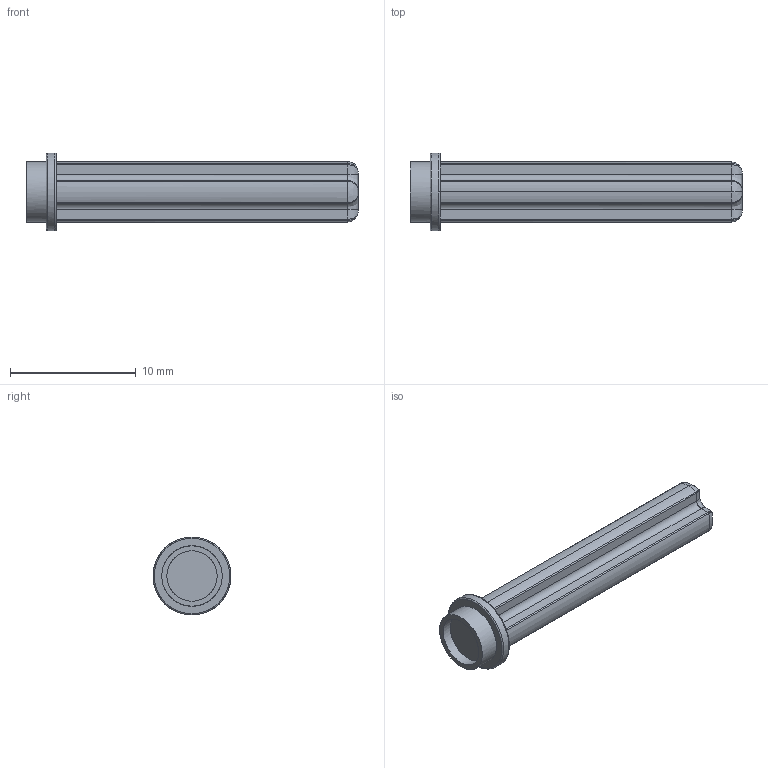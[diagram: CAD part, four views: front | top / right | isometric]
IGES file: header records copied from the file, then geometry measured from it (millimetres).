
Start section: C
Global section: file name: Sand_6031821_JCA.iges; native system: By Siemens PLM Incorporated; preprocessor: XPlus GENERIC/IGES 26.1.183; author: Author; organization: Title; date: 20250722.000527; units: millimetre
Bounding box: 26.4 x 6.19 x 6.2 mm (x, y, z)
Surface area: 510 mm2 (no closed solid volume)
Topology: 0 solids, 0 shells, 60 faces, 284 edges, 276 vertices
Faces by surface type: bspline 60
